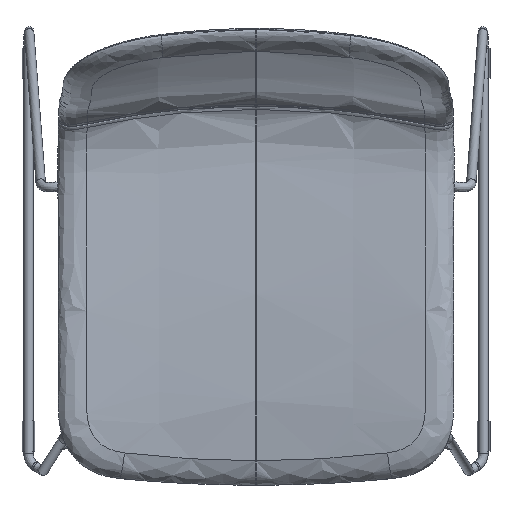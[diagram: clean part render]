
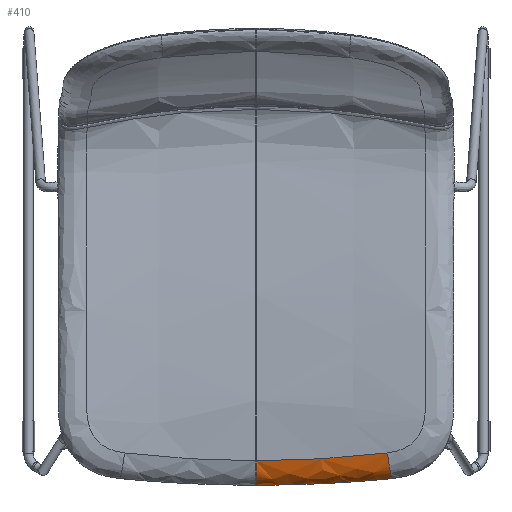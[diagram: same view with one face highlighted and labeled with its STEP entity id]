
A CAD part, top view. The second image highlights one B-rep face of the part: STEP entity #410.
In plain terms, the highlighted free-form (B-spline) face has degree [4, 3] with [5, 10] control points.
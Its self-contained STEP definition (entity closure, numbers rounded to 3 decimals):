
#410=ADVANCED_FACE('',(#1344),#14968,.T.);
#1344=FACE_OUTER_BOUND('',#2278,.T.);
#2278=EDGE_LOOP('',(#3306,#3307,#3308,#3309));
#3306=ORIENTED_EDGE('',*,*,#8138,.F.);
#3307=ORIENTED_EDGE('',*,*,#8139,.F.);
#3308=ORIENTED_EDGE('',*,*,#8133,.F.);
#3309=ORIENTED_EDGE('',*,*,#8137,.F.);
#8133=EDGE_CURVE('',#12903,#12904,#10581,.T.);
#8137=EDGE_CURVE('',#12908,#12903,#10585,.T.);
#8138=EDGE_CURVE('',#12907,#12908,#10586,.T.);
#8139=EDGE_CURVE('',#12904,#12907,#10587,.T.);
#10581=B_SPLINE_CURVE_WITH_KNOTS('',3,(#22636,#22637,#22638,#22639,#22640,
#22641,#22642,#22643,#22644,#22645),.UNSPECIFIED.,.F.,.F.,(4,2,2,2,4),(-156.197,
-117.148,-78.099,-39.049,0.),.UNSPECIFIED.);
#10585=B_SPLINE_CURVE_WITH_KNOTS('',4,(#22662,#22663,#22664,#22665,#22666),
 .UNSPECIFIED.,.F.,.F.,(5,5),(0.,44.131),.UNSPECIFIED.);
#10586=B_SPLINE_CURVE_WITH_KNOTS('',3,(#22667,#22668,#22669,#22670,#22671,
#22672,#22673,#22674,#22675,#22676),.UNSPECIFIED.,.F.,.F.,(4,2,2,2,4),(0.,
39.049,78.099,117.148,156.197),
 .UNSPECIFIED.);
#10587=B_SPLINE_CURVE_WITH_KNOTS('',4,(#22677,#22678,#22679,#22680,#22681),
 .UNSPECIFIED.,.F.,.F.,(5,5),(-44.131,0.),.UNSPECIFIED.);
#12903=VERTEX_POINT('',#22555);
#12904=VERTEX_POINT('',#22556);
#12907=VERTEX_POINT('',#22559);
#12908=VERTEX_POINT('',#22560);
#14968=B_SPLINE_SURFACE_WITH_KNOTS('',4,3,((#18109,#18110,#18111,#18112,
#18113,#18114,#18115,#18116,#18117,#18118),(#18119,#18120,#18121,#18122,
#18123,#18124,#18125,#18126,#18127,#18128),(#18129,#18130,#18131,#18132,
#18133,#18134,#18135,#18136,#18137,#18138),(#18139,#18140,#18141,#18142,
#18143,#18144,#18145,#18146,#18147,#18148),(#18149,#18150,#18151,#18152,
#18153,#18154,#18155,#18156,#18157,#18158)),.UNSPECIFIED.,.F.,.F.,.F.,(5,
5),(4,2,2,2,4),(0.,44.131),(0.,39.049,78.099,
117.148,156.197),.UNSPECIFIED.);
#18109=CARTESIAN_POINT('',(0.,-220.144,448.823));
#18110=CARTESIAN_POINT('',(12.773,-220.037,448.84));
#18111=CARTESIAN_POINT('',(25.547,-219.882,449.074));
#18112=CARTESIAN_POINT('',(51.069,-219.154,450.017));
#18113=CARTESIAN_POINT('',(63.813,-218.578,450.726));
#18114=CARTESIAN_POINT('',(89.249,-217.061,452.583));
#18115=CARTESIAN_POINT('',(101.94,-216.121,453.73));
#18116=CARTESIAN_POINT('',(127.243,-213.826,456.429));
#18117=CARTESIAN_POINT('',(139.852,-212.471,457.977));
#18118=CARTESIAN_POINT('',(152.434,-211.077,459.688));
#18119=CARTESIAN_POINT('',(0.,-233.744,446.592));
#18120=CARTESIAN_POINT('',(12.95,-233.744,446.592));
#18121=CARTESIAN_POINT('',(25.842,-233.521,446.871));
#18122=CARTESIAN_POINT('',(51.714,-232.816,447.93));
#18123=CARTESIAN_POINT('',(64.62,-232.264,448.727));
#18124=CARTESIAN_POINT('',(90.356,-230.783,450.812));
#18125=CARTESIAN_POINT('',(103.173,-229.857,452.098));
#18126=CARTESIAN_POINT('',(128.86,-227.561,455.139));
#18127=CARTESIAN_POINT('',(141.292,-226.243,456.832));
#18128=CARTESIAN_POINT('',(154.322,-224.743,458.786));
#18129=CARTESIAN_POINT('',(0.,-247.178,443.35));
#18130=CARTESIAN_POINT('',(13.137,-247.178,443.35));
#18131=CARTESIAN_POINT('',(26.158,-246.996,443.66));
#18132=CARTESIAN_POINT('',(52.401,-246.33,444.868));
#18133=CARTESIAN_POINT('',(65.479,-245.811,445.775));
#18134=CARTESIAN_POINT('',(91.53,-244.388,448.153));
#18135=CARTESIAN_POINT('',(104.48,-243.487,449.618));
#18136=CARTESIAN_POINT('',(130.557,-241.217,453.098));
#18137=CARTESIAN_POINT('',(142.814,-239.948,454.986));
#18138=CARTESIAN_POINT('',(156.29,-238.357,457.261));
#18139=CARTESIAN_POINT('',(0.,-253.878,421.515));
#18140=CARTESIAN_POINT('',(13.37,-253.878,421.515));
#18141=CARTESIAN_POINT('',(26.743,-253.753,421.859));
#18142=CARTESIAN_POINT('',(53.444,-253.168,423.243));
#18143=CARTESIAN_POINT('',(66.774,-252.733,424.276));
#18144=CARTESIAN_POINT('',(93.351,-251.549,426.977));
#18145=CARTESIAN_POINT('',(106.598,-250.797,428.645));
#18146=CARTESIAN_POINT('',(132.981,-248.97,432.538));
#18147=CARTESIAN_POINT('',(146.116,-247.893,434.763));
#18148=CARTESIAN_POINT('',(159.185,-246.614,437.222));
#18149=CARTESIAN_POINT('',(0.,-244.424,424.298));
#18150=CARTESIAN_POINT('',(13.258,-244.424,424.298));
#18151=CARTESIAN_POINT('',(26.517,-244.281,424.613));
#18152=CARTESIAN_POINT('',(52.998,-243.695,425.859));
#18153=CARTESIAN_POINT('',(66.222,-243.253,426.791));
#18154=CARTESIAN_POINT('',(92.599,-242.056,429.234));
#18155=CARTESIAN_POINT('',(105.753,-241.299,430.745));
#18156=CARTESIAN_POINT('',(131.969,-239.455,434.285));
#18157=CARTESIAN_POINT('',(145.029,-238.366,436.314));
#18158=CARTESIAN_POINT('',(158.035,-237.111,438.561));
#22555=CARTESIAN_POINT('',(158.035,-237.111,438.561));
#22556=CARTESIAN_POINT('',(0.,-244.424,424.298));
#22559=CARTESIAN_POINT('',(0.,-220.144,448.823));
#22560=CARTESIAN_POINT('',(152.434,-211.077,459.688));
#22636=CARTESIAN_POINT('',(158.035,-237.111,438.561));
#22637=CARTESIAN_POINT('',(145.029,-238.366,436.314));
#22638=CARTESIAN_POINT('',(131.969,-239.455,434.285));
#22639=CARTESIAN_POINT('',(105.753,-241.299,430.745));
#22640=CARTESIAN_POINT('',(92.599,-242.056,429.234));
#22641=CARTESIAN_POINT('',(66.222,-243.253,426.791));
#22642=CARTESIAN_POINT('',(52.998,-243.695,425.859));
#22643=CARTESIAN_POINT('',(26.517,-244.281,424.613));
#22644=CARTESIAN_POINT('',(13.258,-244.424,424.298));
#22645=CARTESIAN_POINT('',(0.,-244.424,424.298));
#22662=CARTESIAN_POINT('',(152.434,-211.077,459.688));
#22663=CARTESIAN_POINT('',(154.322,-224.743,458.786));
#22664=CARTESIAN_POINT('',(156.29,-238.357,457.261));
#22665=CARTESIAN_POINT('',(159.185,-246.614,437.222));
#22666=CARTESIAN_POINT('',(158.035,-237.111,438.561));
#22667=CARTESIAN_POINT('',(0.,-220.144,448.823));
#22668=CARTESIAN_POINT('',(12.773,-220.037,448.84));
#22669=CARTESIAN_POINT('',(25.547,-219.882,449.074));
#22670=CARTESIAN_POINT('',(51.069,-219.154,450.017));
#22671=CARTESIAN_POINT('',(63.813,-218.578,450.726));
#22672=CARTESIAN_POINT('',(89.249,-217.061,452.583));
#22673=CARTESIAN_POINT('',(101.94,-216.121,453.73));
#22674=CARTESIAN_POINT('',(127.243,-213.826,456.429));
#22675=CARTESIAN_POINT('',(139.852,-212.471,457.977));
#22676=CARTESIAN_POINT('',(152.434,-211.077,459.688));
#22677=CARTESIAN_POINT('',(0.,-244.424,424.298));
#22678=CARTESIAN_POINT('',(0.,-253.878,421.515));
#22679=CARTESIAN_POINT('',(0.,-247.178,443.35));
#22680=CARTESIAN_POINT('',(0.,-233.744,446.592));
#22681=CARTESIAN_POINT('',(0.,-220.144,448.823));
